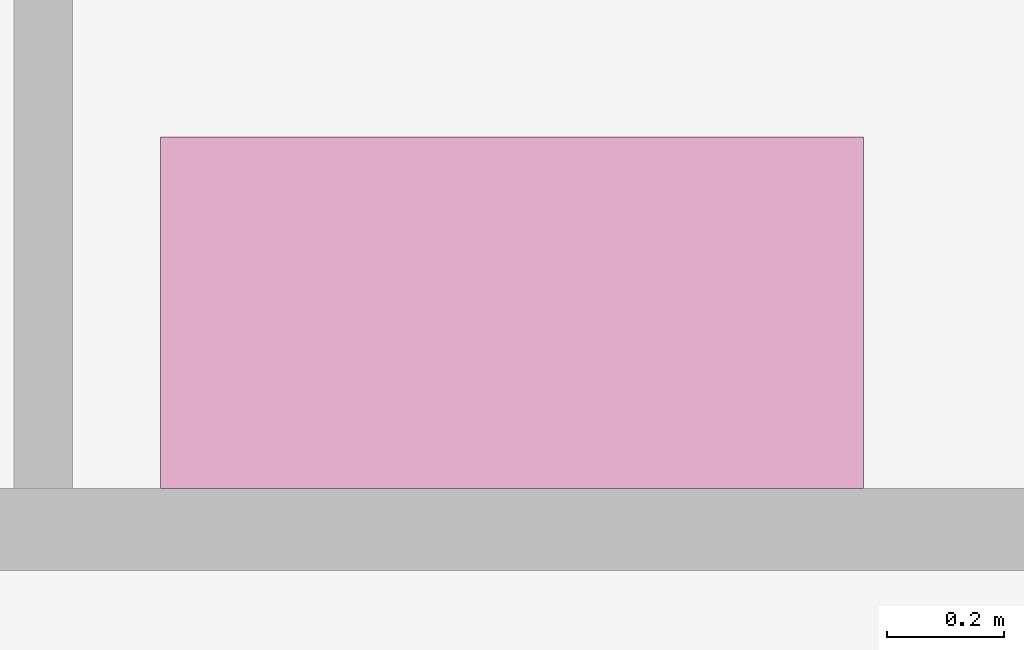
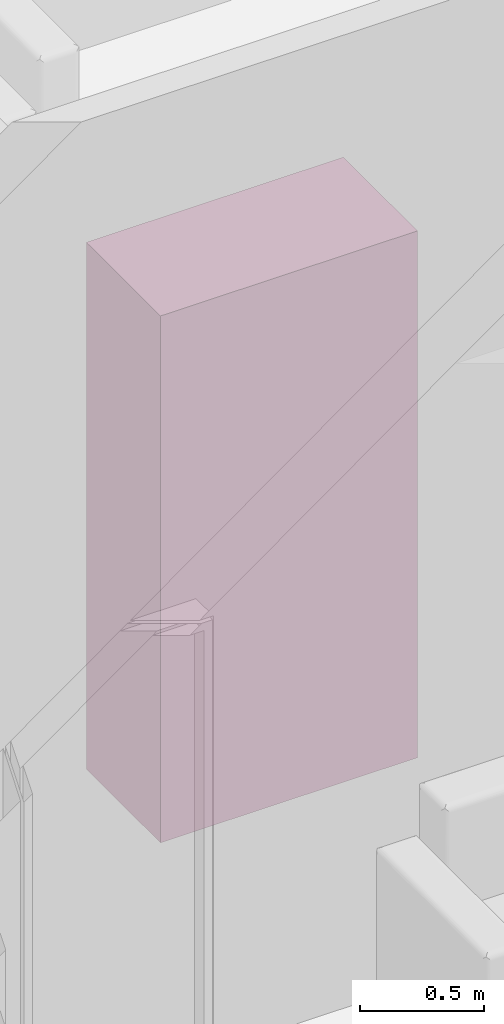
# One storey, part 61 of 71: 1 furniture element.
"""IFC4 building model written with IfcOpenShell, lengths in centimetres."""

from ifc_helpers import new_model, entity, si_unit, converted_unit, derived_unit, direction, frame, origin, place, context, subcontext, project, spatial, indexed_curve, outline, extrude, source, transform, mapped, material, type_object, type_shapes, element, save


model = new_model("IFC4")

# Units and contexts
model_context = context("Model", 3, precision=0.001, world=origin(), true_north=direction((6.123233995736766e-17, 1.0)))
body_context = subcontext(model_context, "Body", "Model", "MODEL_VIEW")
ifc_project = project(units=[si_unit("LENGTHUNIT", "METRE", prefix="CENTI"), si_unit("AREAUNIT", "SQUARE_METRE"), si_unit("VOLUMEUNIT", "CUBIC_METRE"), derived_unit("THERMALTRANSMITTANCEUNIT", [(si_unit("MASSUNIT", "GRAM", prefix="KILO"), 1), (si_unit("THERMODYNAMICTEMPERATUREUNIT", "KELVIN"), -1), (si_unit("TIMEUNIT", "SECOND"), -3)]), converted_unit("PLANEANGLEUNIT", "DEGREE", entity("IfcPlaneAngleMeasure", 0.017453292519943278), si_unit("PLANEANGLEUNIT", "RADIAN"), dimensions=[0, 0, 0, 0, 0, 0, 0]), derived_unit("MASSDENSITYUNIT", [(si_unit("MASSUNIT", "GRAM", prefix="KILO"), 1), (si_unit("LENGTHUNIT", "METRE"), -3)]), derived_unit("VAPORPERMEABILITYUNIT", [(si_unit("LENGTHUNIT", "METRE"), -1), (si_unit("TIMEUNIT", "SECOND"), 1)]), derived_unit("USERDEFINED", [(si_unit("MASSUNIT", "GRAM", prefix="KILO"), 1), (si_unit("TIMEUNIT", "SECOND"), -3), (si_unit("LENGTHUNIT", "METRE"), 3), (si_unit("ELECTRICCURRENTUNIT", "AMPERE"), -2)]), derived_unit("SPECIFICHEATCAPACITYUNIT", [(si_unit("THERMODYNAMICTEMPERATUREUNIT", "KELVIN"), -1), (si_unit("LENGTHUNIT", "METRE"), 2), (si_unit("TIMEUNIT", "SECOND"), -2)]), derived_unit("THERMALCONDUCTANCEUNIT", [(si_unit("MASSUNIT", "GRAM", prefix="KILO"), 1), (si_unit("THERMODYNAMICTEMPERATUREUNIT", "KELVIN"), -1), (si_unit("TIMEUNIT", "SECOND"), -3), (si_unit("LENGTHUNIT", "METRE"), 1)]), si_unit("PRESSUREUNIT", "PASCAL"), derived_unit("MODULUSOFELASTICITYUNIT", [(si_unit("MASSUNIT", "GRAM", prefix="KILO"), 1), (si_unit("LENGTHUNIT", "METRE"), -1), (si_unit("TIMEUNIT", "SECOND"), -2)]), derived_unit("THERMALEXPANSIONCOEFFICIENTUNIT", [(si_unit("THERMODYNAMICTEMPERATUREUNIT", "KELVIN"), -1)])], contexts=[model_context])

# Site, building, storey, space
site_placement = place(None, origin())
site = spatial("IfcSite", under=ifc_project, at=site_placement, Name="Default", CompositionType="ELEMENT")
building_placement = place(site_placement, origin())
building = spatial("IfcBuilding", under=site, at=building_placement, Name="IDS Escape Game Building", CompositionType="ELEMENT")
storey_placement = place(building_placement, frame((0.0, 0.0, 400.0)))
storey = spatial("IfcBuildingStorey", under=building, at=storey_placement, Name="01_First Floor", CompositionType="ELEMENT", Elevation=399.99999999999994)
space_placement = place(storey_placement, origin())
space = spatial("IfcSpace", under=storey, at=space_placement, Name="65", CompositionType="ELEMENT", PredefinedType="NOTDEFINED")

# Furniture
ifc_material = material(Name="<Unnamed>")
furniture_type = type_object("IfcFurnitureType", Name="BPL_82.11_CA_UN_kast_gen_BERSnl:type 1", AssemblyPlace="NOTDEFINED", PredefinedType="NOTDEFINED", material=ifc_material)
shared_shape = source(origin(), body_context, "Body", "SweptSolid", [
    extrude(outline(indexed_curve([(-59.99999999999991, -29.999999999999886), (59.99999999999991, -29.999999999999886), (59.99999999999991, 29.999999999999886), (-59.99999999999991, 29.999999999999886), (-59.99999999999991, -29.999999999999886)], self_intersect=False)), frame((-60.0, -30.0, 0.0), z_axis=(0.0, 0.0, 1.0), x_axis=(-1.0, 0.0, 0.0)), (0.0, 0.0, 1.0), 260.0),
])
type_shapes(furniture_type, [shared_shape])
furniture_placement = place(space_placement, frame((1035.0, 2625.0, 0.0)))
element("IfcFurniture", 1, at=furniture_placement, inside=space, type_object=furniture_type, material=ifc_material, Name="BPL_82.11_CA_UN_kast_gen_BERSnl:type 1", ObjectType="BPL_82.11_CA_UN_kast_gen_BERSnl:type 1", PredefinedType="NOTDEFINED", context=body_context, shape_type="MappedRepresentation", body=[
    mapped(shared_shape, transform((0.0, 0.0, 0.0), scale=1.0)),
])

save(model, "model.ifc")
